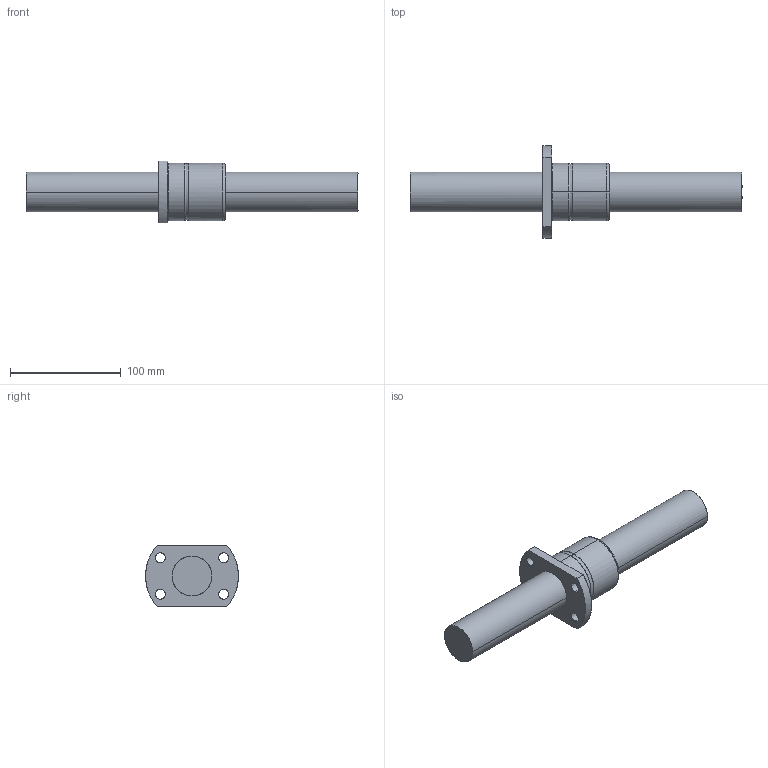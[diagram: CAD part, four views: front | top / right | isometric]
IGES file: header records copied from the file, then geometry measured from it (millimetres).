
Global section: file name: No Iges File Name specified; native system: AutoDesk Inventor R10; preprocessor: AutoDesk Inventor Iges Exporter R10; author: No Author specified; organization: No Organization specified; date: 20101224.154329; units: millimetre
Bounding box: 300 x 83.89 x 56 mm (x, y, z)
Surface area: 60174.6 mm2 (no closed solid volume)
Topology: 0 solids, 0 shells, 33 faces, 238 edges, 238 vertices
Faces by surface type: bspline 33
